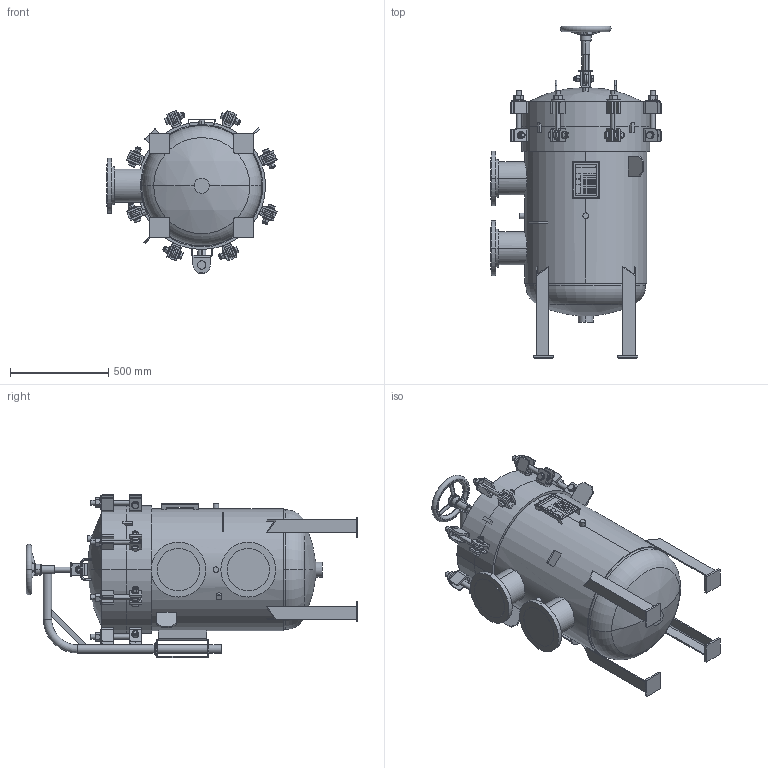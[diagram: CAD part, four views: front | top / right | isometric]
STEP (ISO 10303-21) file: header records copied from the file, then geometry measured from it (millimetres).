
FILE_DESCRIPTION (( 'STEP AP203' ), '1' );
FILE_NAME ('002004-01398.step', '2025-12-09T14:45:49', ( '' ), ( '' ), 'SwSTEP 2.0', 'SolidWorks 2023', '' );
FILE_SCHEMA (( 'CONFIG_CONTROL_DESIGN' ));
Length unit declared in the file: inch
Products named in the file (1): 002004-01398
Bounding box: 866.32 x 1690.83 x 832.24 mm (x, y, z)
Volume: 163312144.7 mm3; surface area: 6937004.4 mm2
Topology: 34 solids, 34 shells, 1752 faces, 4167 edges, 2607 vertices
Faces by surface type: plane 756, cylinder 504, cone 352, torus 82, bspline 48, sphere 10
Entity records: 58635 total; most frequent: CARTESIAN_POINT 18423, DIRECTION 8445, ORIENTED_EDGE 8310, EDGE_CURVE 4155, AXIS2_PLACEMENT_3D 3335, VERTEX_POINT 2607, EDGE_LOOP 1928, VECTOR 1775
